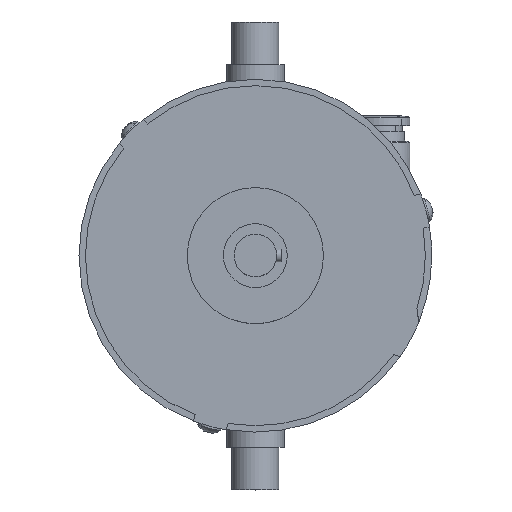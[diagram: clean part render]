
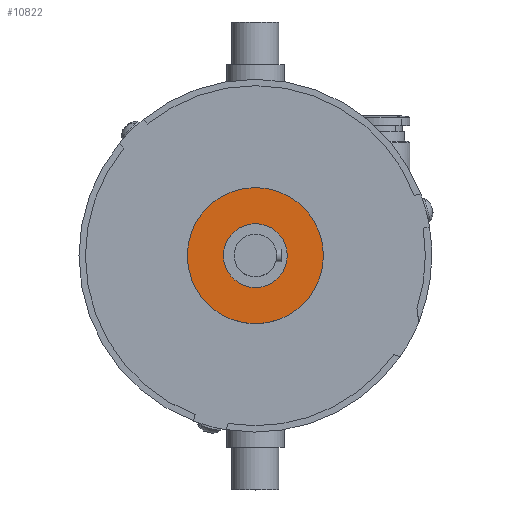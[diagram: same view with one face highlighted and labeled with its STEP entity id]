
A CAD part, top view. The second image highlights one B-rep face of the part: STEP entity #10822.
In plain terms, the highlighted planar face has unit normal (0, 0, 1).
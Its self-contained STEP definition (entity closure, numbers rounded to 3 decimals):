
#105 = AXIS2_PLACEMENT_3D ( 'NONE', #6709, #12108, #12253 ) ;
#690 = CARTESIAN_POINT ( 'NONE',  ( 27.5, -16.002, -883.641 ) ) ;
#701 = EDGE_CURVE ( 'NONE', #1461, #13860, #4268, .T. ) ;
#900 = CARTESIAN_POINT ( 'NONE',  ( 35., -0.002, -883.641 ) ) ;
#1461 = VERTEX_POINT ( 'NONE', #12017 ) ;
#1710 = CIRCLE ( 'NONE', #12071, 16. ) ;
#2583 = DIRECTION ( 'NONE',  ( 0., 1., 0. ) ) ;
#3290 = EDGE_CURVE ( 'NONE', #13860, #1461, #6466, .T. ) ;
#3601 = DIRECTION ( 'NONE',  ( 0., 1., 0. ) ) ;
#3856 = ORIENTED_EDGE ( 'NONE', *, *, #3290, .T. ) ;
#4268 = CIRCLE ( 'NONE', #12377, 7.5 ) ;
#4853 = FACE_BOUND ( 'NONE', #11553, .T. ) ;
#5216 = PLANE ( 'NONE',  #7250 ) ;
#6309 = CARTESIAN_POINT ( 'NONE',  ( 27.5, -0.002, -883.641 ) ) ;
#6466 = CIRCLE ( 'NONE', #105, 7.5 ) ;
#6709 = CARTESIAN_POINT ( 'NONE',  ( 27.5, -0.002, -883.641 ) ) ;
#6808 = DIRECTION ( 'NONE',  ( 0., 0., -1. ) ) ;
#7250 = AXIS2_PLACEMENT_3D ( 'NONE', #900, #11623, #12535 ) ;
#7346 = DIRECTION ( 'NONE',  ( 0., 0., -1. ) ) ;
#7499 = DIRECTION ( 'NONE',  ( 0., 1., 0. ) ) ;
#7629 = VERTEX_POINT ( 'NONE', #690 ) ;
#7753 = EDGE_CURVE ( 'NONE', #12601, #7629, #1710, .T. ) ;
#8172 = AXIS2_PLACEMENT_3D ( 'NONE', #11067, #8730, #2583 ) ;
#8659 = ORIENTED_EDGE ( 'NONE', *, *, #701, .T. ) ;
#8730 = DIRECTION ( 'NONE',  ( 0., 0., -1. ) ) ;
#9038 = EDGE_LOOP ( 'NONE', ( #12826, #12961 ) ) ;
#9576 = FACE_OUTER_BOUND ( 'NONE', #9038, .T. ) ;
#9746 = CIRCLE ( 'NONE', #8172, 16. ) ;
#10822 = ADVANCED_FACE ( 'NONE', ( #4853, #9576 ), #5216, .T. ) ;
#10928 = CARTESIAN_POINT ( 'NONE',  ( 27.5, 7.498, -883.641 ) ) ;
#11067 = CARTESIAN_POINT ( 'NONE',  ( 27.5, -0.002, -883.641 ) ) ;
#11553 = EDGE_LOOP ( 'NONE', ( #3856, #8659 ) ) ;
#11623 = DIRECTION ( 'NONE',  ( 0., 0., 1. ) ) ;
#12017 = CARTESIAN_POINT ( 'NONE',  ( 27.5, -7.502, -883.641 ) ) ;
#12071 = AXIS2_PLACEMENT_3D ( 'NONE', #6309, #7346, #7499 ) ;
#12108 = DIRECTION ( 'NONE',  ( 0., 0., -1. ) ) ;
#12213 = CARTESIAN_POINT ( 'NONE',  ( 27.5, -0.002, -883.641 ) ) ;
#12253 = DIRECTION ( 'NONE',  ( 0., 1., 0. ) ) ;
#12377 = AXIS2_PLACEMENT_3D ( 'NONE', #12213, #6808, #3601 ) ;
#12535 = DIRECTION ( 'NONE',  ( 0.996, -0.093, 0. ) ) ;
#12601 = VERTEX_POINT ( 'NONE', #13241 ) ;
#12826 = ORIENTED_EDGE ( 'NONE', *, *, #7753, .F. ) ;
#12961 = ORIENTED_EDGE ( 'NONE', *, *, #13837, .F. ) ;
#13241 = CARTESIAN_POINT ( 'NONE',  ( 27.5, 15.998, -883.641 ) ) ;
#13837 = EDGE_CURVE ( 'NONE', #7629, #12601, #9746, .T. ) ;
#13860 = VERTEX_POINT ( 'NONE', #10928 ) ;
